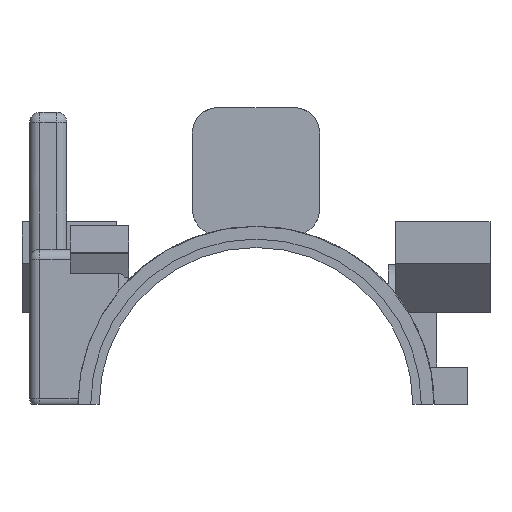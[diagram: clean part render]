
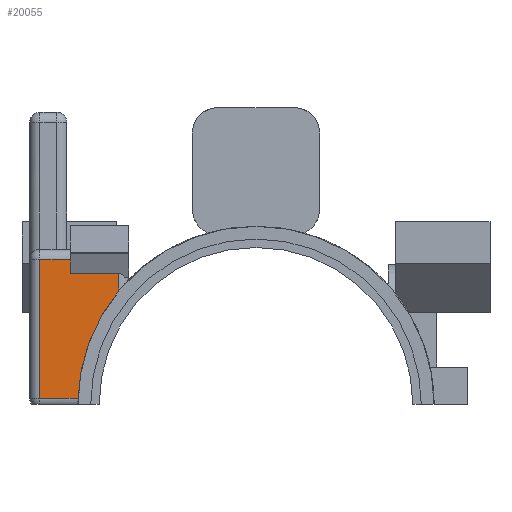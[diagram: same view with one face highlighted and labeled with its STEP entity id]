
A CAD part, left-side view. The second image highlights one B-rep face of the part: STEP entity #20055.
In plain terms, the highlighted planar face has unit normal (-1, 0, 0).
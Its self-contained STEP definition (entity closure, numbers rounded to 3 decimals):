
#79 = CYLINDRICAL_SURFACE('',#80,21.);
#80 = AXIS2_PLACEMENT_3D('',#81,#82,#83);
#81 = CARTESIAN_POINT('',(20.,0.,0.));
#82 = DIRECTION('',(1.,0.,0.));
#83 = DIRECTION('',(0.,0.,-1.));
#1648 = VERTEX_POINT('',#1649);
#1649 = CARTESIAN_POINT('',(20.8,16.2,13.363));
#1697 = CYLINDRICAL_SURFACE('',#1698,1.2);
#1698 = AXIS2_PLACEMENT_3D('',#1699,#1700,#1701);
#1699 = CARTESIAN_POINT('',(22.,16.2,-0.5));
#1700 = DIRECTION('',(0.,0.,1.));
#1701 = DIRECTION('',(-1.,-0.,0.));
#1726 = EDGE_CURVE('',#1727,#1648,#1729,.T.);
#1727 = VERTEX_POINT('',#1728);
#1728 = CARTESIAN_POINT('',(20.8,20.988,0.7));
#1729 = SURFACE_CURVE('',#1730,(#1735,#1742),.PCURVE_S1.);
#1730 = CIRCLE('',#1731,21.);
#1731 = AXIS2_PLACEMENT_3D('',#1732,#1733,#1734);
#1732 = CARTESIAN_POINT('',(20.8,0.,0.));
#1733 = DIRECTION('',(1.,0.,0.));
#1734 = DIRECTION('',(0.,0.,-1.));
#1735 = PCURVE('',#79,#1736);
#1736 = DEFINITIONAL_REPRESENTATION('',(#1737),#1741);
#1737 = LINE('',#1738,#1739);
#1738 = CARTESIAN_POINT('',(0.,0.8));
#1739 = VECTOR('',#1740,1.);
#1740 = DIRECTION('',(1.,0.));
#1741 = ( GEOMETRIC_REPRESENTATION_CONTEXT(2) 
PARAMETRIC_REPRESENTATION_CONTEXT() REPRESENTATION_CONTEXT('2D SPACE',''
  ) );
#1742 = PCURVE('',#1743,#1748);
#1743 = PLANE('',#1744);
#1744 = AXIS2_PLACEMENT_3D('',#1745,#1746,#1747);
#1745 = CARTESIAN_POINT('',(20.8,15.,-0.5));
#1746 = DIRECTION('',(1.,0.,-0.));
#1747 = DIRECTION('',(0.,0.,1.));
#1748 = DEFINITIONAL_REPRESENTATION('',(#1749),#1753);
#1749 = CIRCLE('',#1750,21.);
#1750 = AXIS2_PLACEMENT_2D('',#1751,#1752);
#1751 = CARTESIAN_POINT('',(0.5,15.));
#1752 = DIRECTION('',(-1.,0.));
#1753 = ( GEOMETRIC_REPRESENTATION_CONTEXT(2) 
PARAMETRIC_REPRESENTATION_CONTEXT() REPRESENTATION_CONTEXT('2D SPACE',''
  ) );
#1785 = CYLINDRICAL_SURFACE('',#1786,1.2);
#1786 = AXIS2_PLACEMENT_3D('',#1787,#1788,#1789);
#1787 = CARTESIAN_POINT('',(22.,15.,0.7));
#1788 = DIRECTION('',(-0.,1.,0.));
#1789 = DIRECTION('',(-1.,-0.,0.));
#13836 = CYLINDRICAL_SURFACE('',#13837,1.2);
#13837 = AXIS2_PLACEMENT_3D('',#13838,#13839,#13840);
#13838 = CARTESIAN_POINT('',(22.,25.5,-0.5));
#13839 = DIRECTION('',(0.,0.,1.));
#13840 = DIRECTION('',(-1.,-0.,0.));
#15266 = CYLINDRICAL_SURFACE('',#15267,1.2);
#15267 = AXIS2_PLACEMENT_3D('',#15268,#15269,#15270);
#15268 = CARTESIAN_POINT('',(22.,15.,17.1));
#15269 = DIRECTION('',(-0.,1.,0.));
#15270 = DIRECTION('',(-1.,-0.,0.));
#15293 = PLANE('',#15294);
#15294 = AXIS2_PLACEMENT_3D('',#15295,#15296,#15297);
#15295 = CARTESIAN_POINT('',(24.165,21.9,17.487));
#15296 = DIRECTION('',(0.,1.,-0.));
#15297 = DIRECTION('',(-1.,0.,0.));
#15515 = VERTEX_POINT('',#15516);
#15516 = CARTESIAN_POINT('',(20.8,21.9,17.1));
#15538 = EDGE_CURVE('',#15539,#15515,#15541,.T.);
#15539 = VERTEX_POINT('',#15540);
#15540 = CARTESIAN_POINT('',(20.8,21.9,15.428));
#15541 = SURFACE_CURVE('',#15542,(#15546,#15552),.PCURVE_S1.);
#15542 = LINE('',#15543,#15544);
#15543 = CARTESIAN_POINT('',(20.8,21.9,8.493));
#15544 = VECTOR('',#15545,1.);
#15545 = DIRECTION('',(0.,0.,1.));
#15546 = PCURVE('',#15293,#15547);
#15547 = DEFINITIONAL_REPRESENTATION('',(#15548),#15551);
#15548 = B_SPLINE_CURVE_WITH_KNOTS('',1,(#15549,#15550),.UNSPECIFIED.,
  .F.,.F.,(2,2),(6.507,8.607),
  .PIECEWISE_BEZIER_KNOTS.);
#15549 = CARTESIAN_POINT('',(3.365,-2.487));
#15550 = CARTESIAN_POINT('',(3.365,-0.387));
#15551 = ( GEOMETRIC_REPRESENTATION_CONTEXT(2) 
PARAMETRIC_REPRESENTATION_CONTEXT() REPRESENTATION_CONTEXT('2D SPACE',''
  ) );
#15552 = PCURVE('',#1743,#15553);
#15553 = DEFINITIONAL_REPRESENTATION('',(#15554),#15557);
#15554 = B_SPLINE_CURVE_WITH_KNOTS('',1,(#15555,#15556),.UNSPECIFIED.,
  .F.,.F.,(2,2),(6.507,8.607),
  .PIECEWISE_BEZIER_KNOTS.);
#15555 = CARTESIAN_POINT('',(15.5,-6.9));
#15556 = CARTESIAN_POINT('',(17.6,-6.9));
#15557 = ( GEOMETRIC_REPRESENTATION_CONTEXT(2) 
PARAMETRIC_REPRESENTATION_CONTEXT() REPRESENTATION_CONTEXT('2D SPACE',''
  ) );
#15573 = PLANE('',#15574);
#15574 = AXIS2_PLACEMENT_3D('',#15575,#15576,#15577);
#15575 = CARTESIAN_POINT('',(21.,15.,15.));
#15576 = DIRECTION('',(0.906,0.,0.424));
#15577 = DIRECTION('',(-0.424,0.,0.906));
#15711 = VERTEX_POINT('',#15712);
#15712 = CARTESIAN_POINT('',(20.8,16.2,15.428));
#15738 = EDGE_CURVE('',#15539,#15711,#15739,.T.);
#15739 = SURFACE_CURVE('',#15740,(#15744,#15750),.PCURVE_S1.);
#15740 = LINE('',#15741,#15742);
#15741 = CARTESIAN_POINT('',(20.8,15.,15.428));
#15742 = VECTOR('',#15743,1.);
#15743 = DIRECTION('',(0.,-1.,0.));
#15744 = PCURVE('',#15573,#15745);
#15745 = DEFINITIONAL_REPRESENTATION('',(#15746),#15749);
#15746 = B_SPLINE_CURVE_WITH_KNOTS('',1,(#15747,#15748),.UNSPECIFIED.,
  .F.,.F.,(2,2),(-6.9,-1.2),.PIECEWISE_BEZIER_KNOTS.);
#15747 = CARTESIAN_POINT('',(0.472,-6.9));
#15748 = CARTESIAN_POINT('',(0.472,-1.2));
#15749 = ( GEOMETRIC_REPRESENTATION_CONTEXT(2) 
PARAMETRIC_REPRESENTATION_CONTEXT() REPRESENTATION_CONTEXT('2D SPACE',''
  ) );
#15750 = PCURVE('',#1743,#15751);
#15751 = DEFINITIONAL_REPRESENTATION('',(#15752),#15755);
#15752 = B_SPLINE_CURVE_WITH_KNOTS('',1,(#15753,#15754),.UNSPECIFIED.,
  .F.,.F.,(2,2),(-6.9,-1.2),.PIECEWISE_BEZIER_KNOTS.);
#15753 = CARTESIAN_POINT('',(15.928,-6.9));
#15754 = CARTESIAN_POINT('',(15.928,-1.2));
#15755 = ( GEOMETRIC_REPRESENTATION_CONTEXT(2) 
PARAMETRIC_REPRESENTATION_CONTEXT() REPRESENTATION_CONTEXT('2D SPACE',''
  ) );
#16812 = VERTEX_POINT('',#16813);
#16813 = CARTESIAN_POINT('',(20.8,25.5,17.1));
#16840 = EDGE_CURVE('',#15515,#16812,#16841,.T.);
#16841 = SURFACE_CURVE('',#16842,(#16846,#16853),.PCURVE_S1.);
#16842 = LINE('',#16843,#16844);
#16843 = CARTESIAN_POINT('',(20.8,15.,17.1));
#16844 = VECTOR('',#16845,1.);
#16845 = DIRECTION('',(-0.,1.,0.));
#16846 = PCURVE('',#15266,#16847);
#16847 = DEFINITIONAL_REPRESENTATION('',(#16848),#16852);
#16848 = LINE('',#16849,#16850);
#16849 = CARTESIAN_POINT('',(0.,0.));
#16850 = VECTOR('',#16851,1.);
#16851 = DIRECTION('',(0.,1.));
#16852 = ( GEOMETRIC_REPRESENTATION_CONTEXT(2) 
PARAMETRIC_REPRESENTATION_CONTEXT() REPRESENTATION_CONTEXT('2D SPACE',''
  ) );
#16853 = PCURVE('',#1743,#16854);
#16854 = DEFINITIONAL_REPRESENTATION('',(#16855),#16859);
#16855 = LINE('',#16856,#16857);
#16856 = CARTESIAN_POINT('',(17.6,0.));
#16857 = VECTOR('',#16858,1.);
#16858 = DIRECTION('',(0.,-1.));
#16859 = ( GEOMETRIC_REPRESENTATION_CONTEXT(2) 
PARAMETRIC_REPRESENTATION_CONTEXT() REPRESENTATION_CONTEXT('2D SPACE',''
  ) );
#17255 = EDGE_CURVE('',#17256,#16812,#17258,.T.);
#17256 = VERTEX_POINT('',#17257);
#17257 = CARTESIAN_POINT('',(20.8,25.5,0.7));
#17258 = SURFACE_CURVE('',#17259,(#17263,#17270),.PCURVE_S1.);
#17259 = LINE('',#17260,#17261);
#17260 = CARTESIAN_POINT('',(20.8,25.5,-0.5));
#17261 = VECTOR('',#17262,1.);
#17262 = DIRECTION('',(0.,0.,1.));
#17263 = PCURVE('',#13836,#17264);
#17264 = DEFINITIONAL_REPRESENTATION('',(#17265),#17269);
#17265 = LINE('',#17266,#17267);
#17266 = CARTESIAN_POINT('',(-0.,0.));
#17267 = VECTOR('',#17268,1.);
#17268 = DIRECTION('',(-0.,1.));
#17269 = ( GEOMETRIC_REPRESENTATION_CONTEXT(2) 
PARAMETRIC_REPRESENTATION_CONTEXT() REPRESENTATION_CONTEXT('2D SPACE',''
  ) );
#17270 = PCURVE('',#1743,#17271);
#17271 = DEFINITIONAL_REPRESENTATION('',(#17272),#17276);
#17272 = LINE('',#17273,#17274);
#17273 = CARTESIAN_POINT('',(0.,-10.5));
#17274 = VECTOR('',#17275,1.);
#17275 = DIRECTION('',(1.,0.));
#17276 = ( GEOMETRIC_REPRESENTATION_CONTEXT(2) 
PARAMETRIC_REPRESENTATION_CONTEXT() REPRESENTATION_CONTEXT('2D SPACE',''
  ) );
#20031 = EDGE_CURVE('',#1648,#15711,#20032,.T.);
#20032 = SURFACE_CURVE('',#20033,(#20037,#20044),.PCURVE_S1.);
#20033 = LINE('',#20034,#20035);
#20034 = CARTESIAN_POINT('',(20.8,16.2,-0.5));
#20035 = VECTOR('',#20036,1.);
#20036 = DIRECTION('',(0.,0.,1.));
#20037 = PCURVE('',#1697,#20038);
#20038 = DEFINITIONAL_REPRESENTATION('',(#20039),#20043);
#20039 = LINE('',#20040,#20041);
#20040 = CARTESIAN_POINT('',(0.,0.));
#20041 = VECTOR('',#20042,1.);
#20042 = DIRECTION('',(0.,1.));
#20043 = ( GEOMETRIC_REPRESENTATION_CONTEXT(2) 
PARAMETRIC_REPRESENTATION_CONTEXT() REPRESENTATION_CONTEXT('2D SPACE',''
  ) );
#20044 = PCURVE('',#1743,#20045);
#20045 = DEFINITIONAL_REPRESENTATION('',(#20046),#20050);
#20046 = LINE('',#20047,#20048);
#20047 = CARTESIAN_POINT('',(0.,-1.2));
#20048 = VECTOR('',#20049,1.);
#20049 = DIRECTION('',(1.,0.));
#20050 = ( GEOMETRIC_REPRESENTATION_CONTEXT(2) 
PARAMETRIC_REPRESENTATION_CONTEXT() REPRESENTATION_CONTEXT('2D SPACE',''
  ) );
#20055 = ADVANCED_FACE('',(#20056),#1743,.F.);
#20056 = FACE_BOUND('',#20057,.F.);
#20057 = EDGE_LOOP('',(#20058,#20059,#20060,#20081,#20082,#20083,#20084)
  );
#20058 = ORIENTED_EDGE('',*,*,#20031,.F.);
#20059 = ORIENTED_EDGE('',*,*,#1726,.F.);
#20060 = ORIENTED_EDGE('',*,*,#20061,.T.);
#20061 = EDGE_CURVE('',#1727,#17256,#20062,.T.);
#20062 = SURFACE_CURVE('',#20063,(#20067,#20074),.PCURVE_S1.);
#20063 = LINE('',#20064,#20065);
#20064 = CARTESIAN_POINT('',(20.8,15.,0.7));
#20065 = VECTOR('',#20066,1.);
#20066 = DIRECTION('',(-0.,1.,0.));
#20067 = PCURVE('',#1743,#20068);
#20068 = DEFINITIONAL_REPRESENTATION('',(#20069),#20073);
#20069 = LINE('',#20070,#20071);
#20070 = CARTESIAN_POINT('',(1.2,0.));
#20071 = VECTOR('',#20072,1.);
#20072 = DIRECTION('',(0.,-1.));
#20073 = ( GEOMETRIC_REPRESENTATION_CONTEXT(2) 
PARAMETRIC_REPRESENTATION_CONTEXT() REPRESENTATION_CONTEXT('2D SPACE',''
  ) );
#20074 = PCURVE('',#1785,#20075);
#20075 = DEFINITIONAL_REPRESENTATION('',(#20076),#20080);
#20076 = LINE('',#20077,#20078);
#20077 = CARTESIAN_POINT('',(-0.,0.));
#20078 = VECTOR('',#20079,1.);
#20079 = DIRECTION('',(-0.,1.));
#20080 = ( GEOMETRIC_REPRESENTATION_CONTEXT(2) 
PARAMETRIC_REPRESENTATION_CONTEXT() REPRESENTATION_CONTEXT('2D SPACE',''
  ) );
#20081 = ORIENTED_EDGE('',*,*,#17255,.T.);
#20082 = ORIENTED_EDGE('',*,*,#16840,.F.);
#20083 = ORIENTED_EDGE('',*,*,#15538,.F.);
#20084 = ORIENTED_EDGE('',*,*,#15738,.T.);
